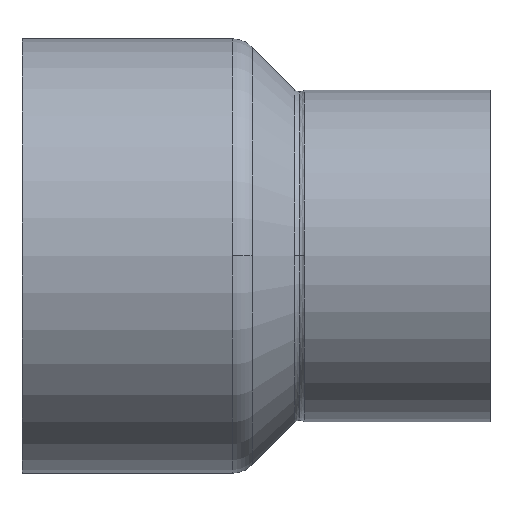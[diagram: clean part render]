
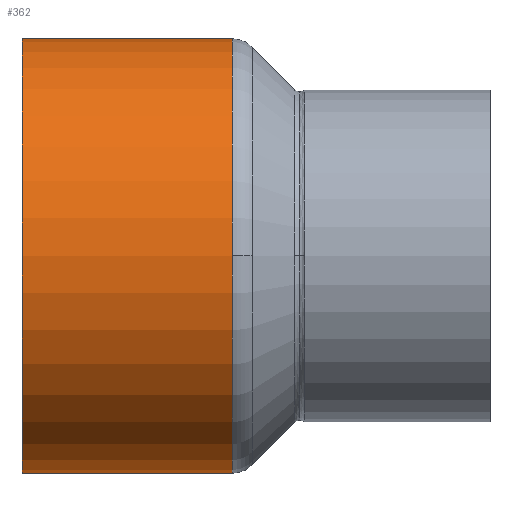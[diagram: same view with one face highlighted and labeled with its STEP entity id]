
A CAD part, top view. The second image highlights one B-rep face of the part: STEP entity #362.
In plain terms, the highlighted cylindrical face has radius 38.05 mm (diameter 76.1 mm), a partial arc.
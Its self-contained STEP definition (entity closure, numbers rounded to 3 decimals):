
#312=CARTESIAN_POINT('',(18.405,0.0,0.0));
#313=DIRECTION('',(1.0,0.0,0.0));
#314=DIRECTION('',(0.0,1.0,0.0));
#315=AXIS2_PLACEMENT_3D('',#312,#313,#314);
#316=CYLINDRICAL_SURFACE('',#315,38.05);
#317=CARTESIAN_POINT('',(0.,38.05,0.0));
#318=VERTEX_POINT('',#317);
#319=CARTESIAN_POINT('',(36.809,38.05,0.0));
#320=VERTEX_POINT('',#319);
#321=CARTESIAN_POINT('',(0.,38.05,0.0));
#322=DIRECTION('',(1.0,0.0,0.0));
#323=VECTOR('',#322,36.809);
#324=LINE('',#321,#323);
#325=EDGE_CURVE('',#318,#320,#324,.T.);
#326=ORIENTED_EDGE('',*,*,#325,.F.);
#327=CARTESIAN_POINT('',(0.,-38.05,0.));
#328=VERTEX_POINT('',#327);
#329=CARTESIAN_POINT('',(0.,0.0,0.0));
#330=DIRECTION('',(1.0,0.0,0.0));
#331=DIRECTION('',(0.0,1.0,0.0));
#332=AXIS2_PLACEMENT_3D('',#329,#330,#331);
#333=CIRCLE('',#332,38.05);
#334=EDGE_CURVE('',#318,#328,#333,.T.);
#335=ORIENTED_EDGE('',*,*,#334,.T.);
#336=CARTESIAN_POINT('',(36.809,-38.05,0.));
#337=VERTEX_POINT('',#336);
#338=CARTESIAN_POINT('',(36.809,-38.05,0.));
#339=DIRECTION('',(-1.0,0.0,0.0));
#340=VECTOR('',#339,36.809);
#341=LINE('',#338,#340);
#342=EDGE_CURVE('',#337,#328,#341,.T.);
#343=ORIENTED_EDGE('',*,*,#342,.F.);
#344=CARTESIAN_POINT('',(36.809,0.,38.05));
#345=VERTEX_POINT('',#344);
#346=CARTESIAN_POINT('',(36.809,0.0,0.0));
#347=DIRECTION('',(1.0,0.0,0.0));
#348=DIRECTION('',(0.0,1.0,0.0));
#349=AXIS2_PLACEMENT_3D('',#346,#347,#348);
#350=CIRCLE('',#349,38.05);
#351=EDGE_CURVE('',#345,#337,#350,.T.);
#352=ORIENTED_EDGE('',*,*,#351,.F.);
#353=CARTESIAN_POINT('',(36.809,0.0,0.0));
#354=DIRECTION('',(1.0,0.0,0.0));
#355=DIRECTION('',(0.0,1.0,0.0));
#356=AXIS2_PLACEMENT_3D('',#353,#354,#355);
#357=CIRCLE('',#356,38.05);
#358=EDGE_CURVE('',#320,#345,#357,.T.);
#359=ORIENTED_EDGE('',*,*,#358,.F.);
#360=EDGE_LOOP('',(#326,#335,#343,#352,#359));
#361=FACE_OUTER_BOUND('',#360,.T.);
#362=ADVANCED_FACE('',(#361),#316,.T.);
